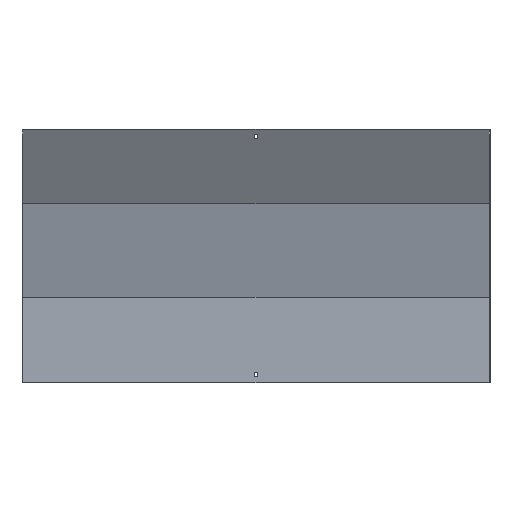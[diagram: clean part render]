
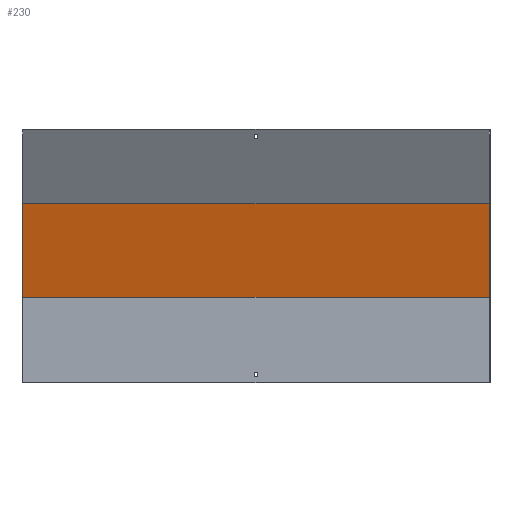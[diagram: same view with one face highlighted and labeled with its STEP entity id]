
A CAD part, front view. The second image highlights one B-rep face of the part: STEP entity #230.
In plain terms, the highlighted planar face has unit normal (0, -0.966, -0.259).
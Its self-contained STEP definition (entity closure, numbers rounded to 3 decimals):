
#24 = AXIS2_PLACEMENT_3D ( 'NONE', #133, #719, #318 ) ;
#45 = EDGE_CURVE ( 'NONE', #523, #179, #703, .T. ) ;
#50 = ORIENTED_EDGE ( 'NONE', *, *, #152, .F. ) ;
#119 = CARTESIAN_POINT ( 'NONE',  ( 450., 58.62, 15.707 ) ) ;
#133 = CARTESIAN_POINT ( 'NONE',  ( 451.5, 17.87, 167.788 ) ) ;
#135 = VERTEX_POINT ( 'NONE', #521 ) ;
#137 = FACE_OUTER_BOUND ( 'NONE', #675, .T. ) ;
#141 = LINE ( 'NONE', #471, #227 ) ;
#152 = EDGE_CURVE ( 'NONE', #823, #135, #141, .T. ) ;
#179 = VERTEX_POINT ( 'NONE', #724 ) ;
#192 = VECTOR ( 'NONE', #777, 1000. ) ;
#202 = CARTESIAN_POINT ( 'NONE',  ( -450., 18.5, 165.436 ) ) ;
#227 = VECTOR ( 'NONE', #660, 1000. ) ;
#230 = ADVANCED_FACE ( 'NONE', ( #137 ), #446, .T. ) ;
#247 = EDGE_CURVE ( 'NONE', #523, #823, #373, .T. ) ;
#301 = DIRECTION ( 'NONE',  ( 0., -0.259, 0.966 ) ) ;
#318 = DIRECTION ( 'NONE',  ( 0., 0.259, -0.966 ) ) ;
#373 = LINE ( 'NONE', #584, #192 ) ;
#378 = CARTESIAN_POINT ( 'NONE',  ( 451.5, -29.866, 345.939 ) ) ;
#446 = PLANE ( 'NONE',  #24 ) ;
#471 = CARTESIAN_POINT ( 'NONE',  ( -450., 58.62, 15.707 ) ) ;
#515 = DIRECTION ( 'NONE',  ( -1., 0., 0. ) ) ;
#521 = CARTESIAN_POINT ( 'NONE',  ( -450., -29.866, 345.939 ) ) ;
#523 = VERTEX_POINT ( 'NONE', #681 ) ;
#525 = ORIENTED_EDGE ( 'NONE', *, *, #247, .F. ) ;
#531 = VECTOR ( 'NONE', #515, 1000. ) ;
#584 = CARTESIAN_POINT ( 'NONE',  ( 451.5, 18.5, 165.436 ) ) ;
#585 = ORIENTED_EDGE ( 'NONE', *, *, #45, .T. ) ;
#660 = DIRECTION ( 'NONE',  ( 0., -0.259, 0.966 ) ) ;
#664 = ORIENTED_EDGE ( 'NONE', *, *, #834, .T. ) ;
#675 = EDGE_LOOP ( 'NONE', ( #50, #525, #585, #664 ) ) ;
#681 = CARTESIAN_POINT ( 'NONE',  ( 450., 18.5, 165.436 ) ) ;
#703 = LINE ( 'NONE', #119, #791 ) ;
#719 = DIRECTION ( 'NONE',  ( 0., -0.966, -0.259 ) ) ;
#724 = CARTESIAN_POINT ( 'NONE',  ( 450., -29.866, 345.939 ) ) ;
#735 = LINE ( 'NONE', #378, #531 ) ;
#777 = DIRECTION ( 'NONE',  ( -1., 0., 0. ) ) ;
#791 = VECTOR ( 'NONE', #301, 1000. ) ;
#823 = VERTEX_POINT ( 'NONE', #202 ) ;
#834 = EDGE_CURVE ( 'NONE', #179, #135, #735, .T. ) ;
